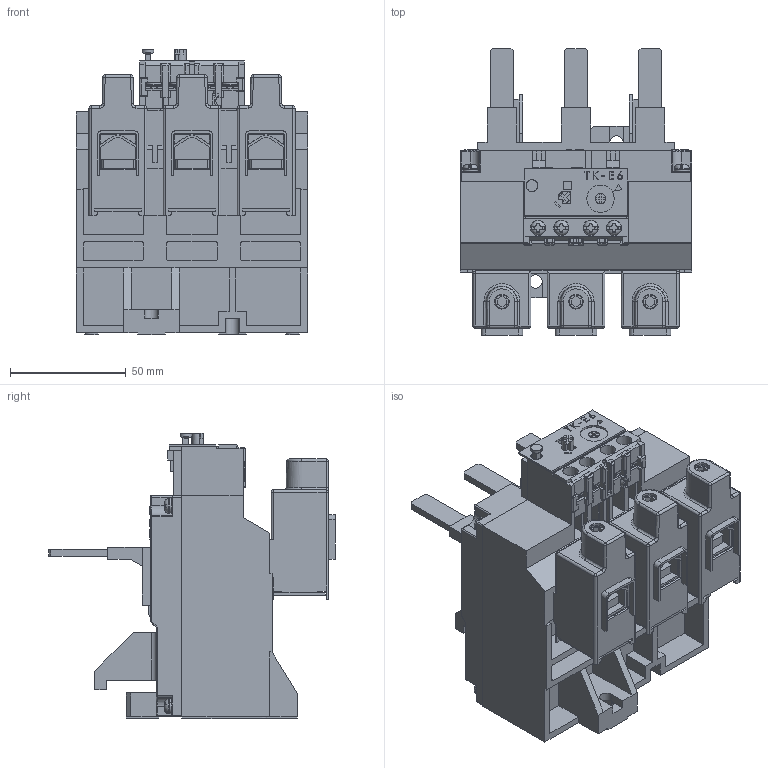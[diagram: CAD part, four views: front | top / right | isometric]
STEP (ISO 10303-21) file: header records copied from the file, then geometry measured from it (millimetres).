
FILE_DESCRIPTION (( 'STEP AP214' ), '1' );
FILE_NAME ('TK-E6.STEP', '2016-03-15T06:25:38', ( '川崎工場' ), ( '富士電機株式会社' ), 'SwSTEP 2.0', 'SolidWorks 2015', '' );
FILE_SCHEMA (( 'AUTOMOTIVE_DESIGN' ));
Length unit declared in the file: millimetre
Products named in the file (28): TK-E6_scale; Box terminal^TK-E6; TK-E6_nameplate; TK-E6_Hexagon socket screw keys_M4; TK-E6_Upper Case; TK-E6_Box terminal structure part; TK-E6_Lower Case; Screw M4^TK-E6; Washer_M4; TK-E6; Springwasher_M4; Screw_M4_L8; Screw M3P5^TK-E6; Washer_M3P5; Screw_M3.5_L7; auxiliary terminal^TK-E6; Springwasher_M3P5; Screw_M3.5_L10; Plate_M3P5_7P8; TK-E6_auxiliary terminal cover; TK-E6_reset button; TK-E6_Finger protection part2; TK-E6_test button; TK-E6_Finger protection part1; TK-E6_main terminal plate; TK-E6 Line terminal cover; TK-E6_auxiliary terminal plate; TK-E6 Line terminal plate
Assembly tree (47 placements, depth 3):
  TK-E6
    TK-E6_Lower Case
    TK-E6_Upper Case
    TK-E6_nameplate
    TK-E6_scale
    TK-E6_auxiliary terminal plate  x4
    TK-E6_main terminal plate  x3
    TK-E6_test button
    TK-E6_reset button
    TK-E6_auxiliary terminal cover
    auxiliary terminal^TK-E6  x4
      Plate_M3P5_7P8
      Screw_M3.5_L10
      Springwasher_M3P5
    Screw M3P5^TK-E6  x4
      Screw_M3.5_L7
      Springwasher_M3P5
      Washer_M3P5
    Screw M4^TK-E6  x3
      Screw_M4_L8
      Springwasher_M4
      Washer_M4
    Box terminal^TK-E6  x3
      TK-E6_Box terminal structure part
      TK-E6_Hexagon socket screw keys_M4
    TK-E6 Line terminal plate  x3
    TK-E6 Line terminal cover
    TK-E6_Finger protection part1
    TK-E6_Finger protection part2  x3
Bounding box: 100 x 123.87 x 123.2 mm (x, y, z)
Volume: 473681.5 mm3; surface area: 172189.5 mm2
Topology: 61 solids, 61 shells, 2173 faces, 5849 edges, 3786 vertices
Faces by surface type: plane 1655, cylinder 359, bspline 81, cone 33, torus 23, sphere 22
Full cylindrical faces by diameter (mm): 3 x6, 3.5 x24, 3.8 x4, 4 x3, 4.3 x3, 5 x2, 5.4 x6, 5.9 x1, 6.4 x3, 6.6 x4, 7 x4, 7.7 x3, 8 x3, 11.8 x2, 12 x1
Entity records: 54941 total; most frequent: CARTESIAN_POINT 14986, ORIENTED_EDGE 8312, DIRECTION 7527, EDGE_CURVE 4156, LINE 3345, VECTOR 3345, VERTEX_POINT 2710, AXIS2_PLACEMENT_3D 2091
